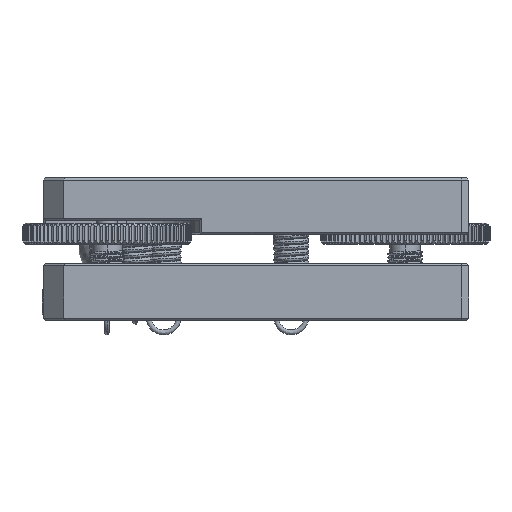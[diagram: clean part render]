
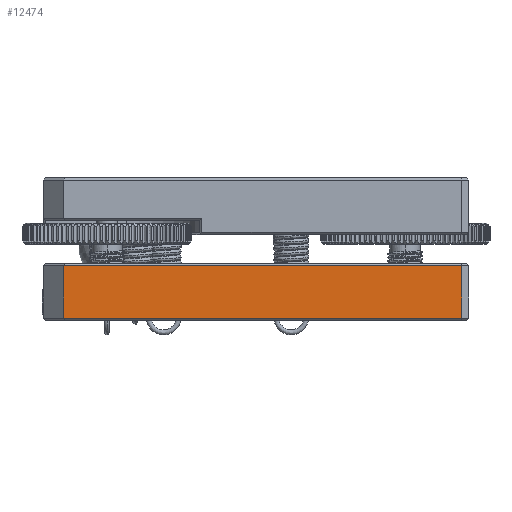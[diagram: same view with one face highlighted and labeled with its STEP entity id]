
A CAD part, front view. The second image highlights one B-rep face of the part: STEP entity #12474.
In plain terms, the highlighted planar face has unit normal (0, -1, 0).
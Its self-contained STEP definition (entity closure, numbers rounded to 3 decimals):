
#173=DIRECTION('',(-1.,0.,0.));
#174=VECTOR('',#173,56.2);
#175=CARTESIAN_POINT('',(29.05,-30.05,-7.7));
#176=LINE('',#175,#174);
#177=DIRECTION('',(0.,0.,1.));
#178=VECTOR('',#177,7.4);
#179=CARTESIAN_POINT('',(-27.15,-30.05,-7.7));
#180=LINE('',#179,#178);
#185=DIRECTION('',(-1.,0.,0.));
#186=VECTOR('',#185,56.2);
#187=CARTESIAN_POINT('',(29.05,-30.05,-0.3));
#188=LINE('',#187,#186);
#193=DIRECTION('',(0.,0.,1.));
#194=VECTOR('',#193,7.4);
#195=CARTESIAN_POINT('',(29.05,-30.05,-7.7));
#196=LINE('',#195,#194);
#9449=CARTESIAN_POINT('',(-27.15,-30.05,-0.3));
#9450=VERTEX_POINT('',#9449);
#9451=CARTESIAN_POINT('',(-27.15,-30.05,-7.7));
#9452=VERTEX_POINT('',#9451);
#9455=CARTESIAN_POINT('',(29.05,-30.05,-0.3));
#9456=VERTEX_POINT('',#9455);
#9457=CARTESIAN_POINT('',(29.05,-30.05,-7.7));
#9458=VERTEX_POINT('',#9457);
#12460=CARTESIAN_POINT('',(-30.05,-30.05,0.));
#12461=DIRECTION('',(0.,-1.,0.));
#12462=DIRECTION('',(1.,0.,0.));
#12463=AXIS2_PLACEMENT_3D('',#12460,#12461,#12462);
#12464=PLANE('',#12463);
#12466=ORIENTED_EDGE('',*,*,#12465,.F.);
#12468=ORIENTED_EDGE('',*,*,#12467,.F.);
#12470=ORIENTED_EDGE('',*,*,#12469,.T.);
#12471=ORIENTED_EDGE('',*,*,#12450,.T.);
#12472=EDGE_LOOP('',(#12466,#12468,#12470,#12471));
#12473=FACE_OUTER_BOUND('',#12472,.F.);
#12474=ADVANCED_FACE('',(#12473),#12464,.T.);
#12450=EDGE_CURVE('',#9452,#9450,#180,.T.);
#12465=EDGE_CURVE('',#9456,#9450,#188,.T.);
#12467=EDGE_CURVE('',#9458,#9456,#196,.T.);
#12469=EDGE_CURVE('',#9458,#9452,#176,.T.);
